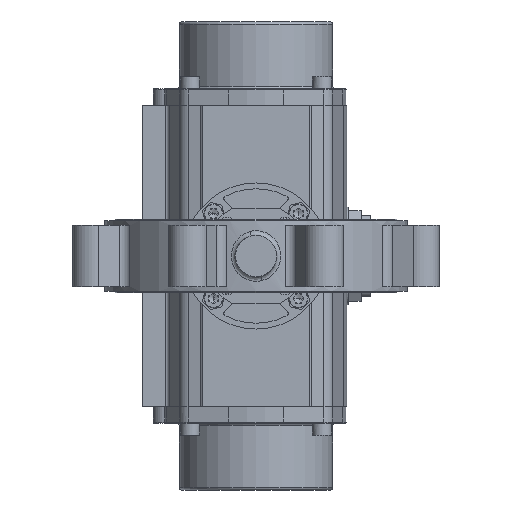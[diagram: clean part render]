
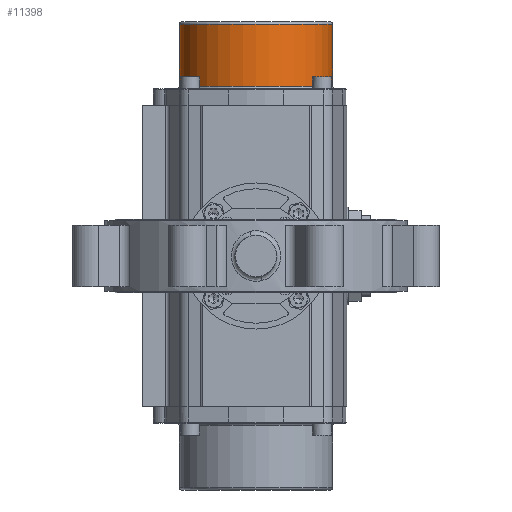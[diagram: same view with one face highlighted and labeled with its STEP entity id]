
A CAD part, front view. The second image highlights one B-rep face of the part: STEP entity #11398.
In plain terms, the highlighted cylindrical face has radius 65 mm (diameter 130 mm), a partial arc.
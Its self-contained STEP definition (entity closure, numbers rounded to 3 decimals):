
#86 = DIRECTION ( 'NONE',  ( -1., 0., 0. ) ) ;
#1658 = DIRECTION ( 'NONE',  ( 0., 0., -1. ) ) ;
#1884 = DIRECTION ( 'NONE',  ( -1., 0., 0. ) ) ;
#3818 = LINE ( 'NONE', #18158, #24284 ) ;
#3948 = CYLINDRICAL_SURFACE ( 'NONE', #20221, 65. ) ;
#4705 = VERTEX_POINT ( 'NONE', #15273 ) ;
#5624 = EDGE_LOOP ( 'NONE', ( #7685, #26445, #24109, #23252 ) ) ;
#6049 = EDGE_CURVE ( 'NONE', #21234, #4705, #11468, .T. ) ;
#6136 = CARTESIAN_POINT ( 'NONE',  ( 198.5, 0., 0. ) ) ;
#7685 = ORIENTED_EDGE ( 'NONE', *, *, #23504, .F. ) ;
#8984 = EDGE_CURVE ( 'NONE', #13694, #9110, #10052, .T. ) ;
#9110 = VERTEX_POINT ( 'NONE', #16681 ) ;
#9356 = CARTESIAN_POINT ( 'NONE',  ( 144., 0., 65. ) ) ;
#10052 = CIRCLE ( 'NONE', #26615, 65. ) ;
#10087 = DIRECTION ( 'NONE',  ( -1., 0., 0. ) ) ;
#10657 = VECTOR ( 'NONE', #10087, 1000. ) ;
#11398 = ADVANCED_FACE ( 'NONE', ( #14330 ), #3948, .T. ) ;
#11468 = CIRCLE ( 'NONE', #26744, 65. ) ;
#11631 = CARTESIAN_POINT ( 'NONE',  ( 196.5, 0., 0. ) ) ;
#11805 = CARTESIAN_POINT ( 'NONE',  ( 144., 0., 0. ) ) ;
#11901 = DIRECTION ( 'NONE',  ( -1., 0., 0. ) ) ;
#12796 = CARTESIAN_POINT ( 'NONE',  ( 196.5, 0., -65. ) ) ;
#13694 = VERTEX_POINT ( 'NONE', #12796 ) ;
#14330 = FACE_OUTER_BOUND ( 'NONE', #5624, .T. ) ;
#15273 = CARTESIAN_POINT ( 'NONE',  ( 144., 0., -65. ) ) ;
#16681 = CARTESIAN_POINT ( 'NONE',  ( 196.5, 0., 65. ) ) ;
#17016 = EDGE_CURVE ( 'NONE', #9110, #21234, #3818, .T. ) ;
#18158 = CARTESIAN_POINT ( 'NONE',  ( 198.5, 0., 65. ) ) ;
#18357 = DIRECTION ( 'NONE',  ( 1., 0., 0. ) ) ;
#20221 = AXIS2_PLACEMENT_3D ( 'NONE', #6136, #86, #21029 ) ;
#20245 = DIRECTION ( 'NONE',  ( 0., 0., -1. ) ) ;
#20326 = LINE ( 'NONE', #22656, #10657 ) ;
#21029 = DIRECTION ( 'NONE',  ( 0., 0., 1. ) ) ;
#21234 = VERTEX_POINT ( 'NONE', #9356 ) ;
#22656 = CARTESIAN_POINT ( 'NONE',  ( 198.5, 0., -65. ) ) ;
#23252 = ORIENTED_EDGE ( 'NONE', *, *, #6049, .T. ) ;
#23504 = EDGE_CURVE ( 'NONE', #13694, #4705, #20326, .T. ) ;
#24109 = ORIENTED_EDGE ( 'NONE', *, *, #17016, .T. ) ;
#24284 = VECTOR ( 'NONE', #1884, 1000. ) ;
#26445 = ORIENTED_EDGE ( 'NONE', *, *, #8984, .T. ) ;
#26615 = AXIS2_PLACEMENT_3D ( 'NONE', #11631, #11901, #20245 ) ;
#26744 = AXIS2_PLACEMENT_3D ( 'NONE', #11805, #18357, #1658 ) ;
